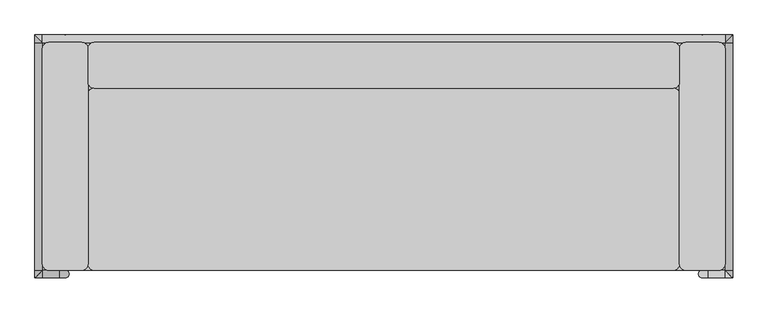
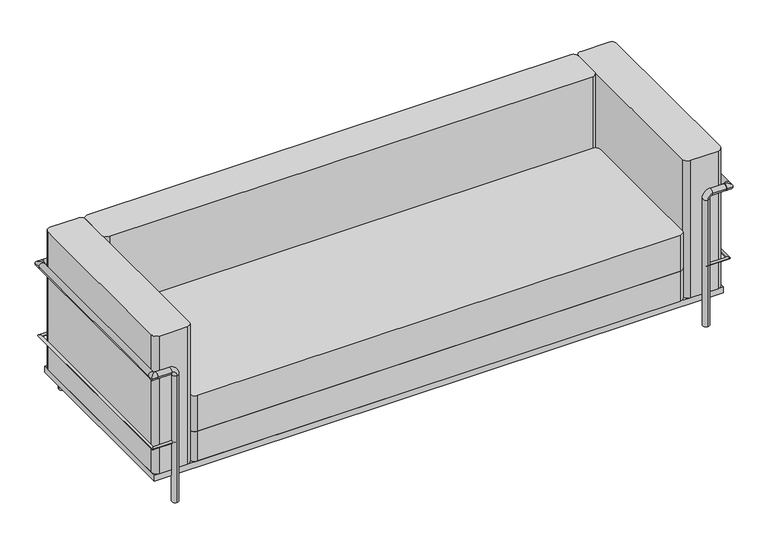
"""IFC4 building model written with IfcOpenShell, lengths in millimetres: furniture geometry, Couch_-_Le_Corbusier_Family_-_1_2_3_seater_9476 : 3 posti 2."""

from ifc_helpers import new_model, si_unit, point, frame, frame_2d, origin, origin_with_axes, place, context, project, spatial, polyline, circle_curve, ellipse_curve, trimmed, segment, composite_curve, outline, extrude, source, transform, mapped, element, save
from ifc_brep_helpers import plane_surface, cylinder_surface, revolved_surface, advanced_brep


def furniture_bfcdaa0c(model_context):
    return source(origin(), model_context, "Body", "SolidModel", [
        advanced_brep(
        [(-1050.0, -557.5, 250.0), (-1050.0, -567.5, 250.0), (-1132.5, -557.5, 250.0), (-1142.5, -567.5, 250.0), (-1132.5, 207.5, 250.0), (-1142.5, 217.5, 250.0), (1132.5, 207.5, 250.0), (1142.5, 217.5, 250.0), (1132.5, -557.5, 250.0), (1142.5, -567.5, 250.0), (1050.0, -557.5, 250.0), (1050.0, -567.5, 250.0)],
        [
            (0, 1, circle_curve(frame((-1050.0, -562.5, 250.0), z_axis=(1.0, 0.0, 0.0), x_axis=(0.0, -1.0, 0.0)), 5.0)),
            (1, 0, circle_curve(frame((-1050.0, -562.5, 250.0), z_axis=(1.0, 0.0, 0.0), x_axis=(0.0, -1.0, 0.0)), 5.0)),
            (0, 2),
            (2, 3, ellipse_curve(frame((-1137.5, -562.5, 250.0), z_axis=(0.7071067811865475, -0.7071067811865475, 0.0), x_axis=(0.7071067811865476, 0.7071067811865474, 0.0)), 7.0710678, 5.0)),
            (3, 1),
            (3, 2, ellipse_curve(frame((-1137.5, -562.5, 250.0), z_axis=(0.7071067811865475, -0.7071067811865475, 0.0), x_axis=(0.7071067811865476, 0.7071067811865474, 0.0)), 7.0710678, 5.0)),
            (2, 4),
            (4, 5, ellipse_curve(frame((-1137.5, 212.5, 250.0), z_axis=(-0.7071067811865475, -0.7071067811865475, 0.0), x_axis=(0.7071067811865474, -0.7071067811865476, 0.0)), 7.0710678, 5.0)),
            (5, 3),
            (5, 4, ellipse_curve(frame((-1137.5, 212.5, 250.0), z_axis=(-0.7071067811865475, -0.7071067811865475, 0.0), x_axis=(0.7071067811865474, -0.7071067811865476, 0.0)), 7.0710678, 5.0)),
            (4, 6),
            (6, 7, ellipse_curve(frame((1137.5, 212.5, 250.0), z_axis=(-0.7071067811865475, 0.7071067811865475, 0.0), x_axis=(-0.7071067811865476, -0.7071067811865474, 0.0)), 7.0710678, 5.0)),
            (7, 5),
            (7, 6, ellipse_curve(frame((1137.5, 212.5, 250.0), z_axis=(-0.7071067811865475, 0.7071067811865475, 0.0), x_axis=(-0.7071067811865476, -0.7071067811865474, 0.0)), 7.0710678, 5.0)),
            (6, 8),
            (8, 9, ellipse_curve(frame((1137.5, -562.5, 250.0), z_axis=(0.7071067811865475, 0.7071067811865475, 0.0), x_axis=(-0.7071067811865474, 0.7071067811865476, 0.0)), 7.0710678, 5.0)),
            (9, 7),
            (9, 8, ellipse_curve(frame((1137.5, -562.5, 250.0), z_axis=(0.7071067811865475, 0.7071067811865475, 0.0), x_axis=(-0.7071067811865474, 0.7071067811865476, 0.0)), 7.0710678, 5.0)),
            (10, 11, circle_curve(frame((1050.0, -562.5, 250.0), z_axis=(-1.0, 0.0, 0.0), x_axis=(0.0, -1.0, 0.0)), 5.0)),
            (11, 10, circle_curve(frame((1050.0, -562.5, 250.0), z_axis=(-1.0, 0.0, 0.0), x_axis=(0.0, -1.0, 0.0)), 5.0)),
            (8, 10),
            (11, 9),
        ],
        [
            plane_surface(frame((-1050.0, -562.5, 250.0), z_axis=(1.0, 0.0, 0.0), x_axis=(0.0, 0.0, 1.0))),
            cylinder_surface(frame((-1050.0, -562.5, 250.0), z_axis=(1.0, 0.0, 0.0), x_axis=(0.0, -1.0, 0.0)), 5.0),
            cylinder_surface(frame((-1137.5, -562.5, 250.0), z_axis=(0.0, -1.0, 0.0), x_axis=(-1.0, 0.0, 0.0)), 5.0),
            cylinder_surface(frame((-1137.5, 212.5, 250.0), z_axis=(-1.0, 0.0, 0.0), x_axis=(0.0, 1.0, 0.0)), 5.0),
            cylinder_surface(frame((1137.5, 212.5, 250.0), z_axis=(0.0, 1.0, 0.0), x_axis=(1.0, 0.0, 0.0)), 5.0),
            plane_surface(frame((1050.0, -562.5, 250.0), z_axis=(-1.0, 0.0, 0.0), x_axis=(0.0, 0.0, 1.0))),
            cylinder_surface(frame((1137.5, -562.5, 250.0), z_axis=(1.0, 0.0, 0.0), x_axis=(0.0, -1.0, 0.0)), 5.0),
        ],
        [
            (0, [[1, 2]]),
            (1, [[-1, 3, 4, 5]]),
            (1, [[-2, -5, 6, -3]]),
            (2, [[-4, 7, 8, 9]]),
            (2, [[-6, -9, 10, -7]]),
            (3, [[-8, 11, 12, 13]]),
            (3, [[-10, -13, 14, -11]]),
            (4, [[-12, 15, 16, 17]]),
            (4, [[-14, -17, 18, -15]]),
            (5, [[19, 20]]),
            (6, [[-16, 21, -20, 22]]),
            (6, [[-18, -22, -19, -21]]),
        ],
    ),
        extrude(outline(composite_curve([segment(trimmed(circle_curve(frame_2d((1050.0, 212.5)), 12.5), [point((1062.5, 212.5))], [point((1037.5, 212.5))], False, "CARTESIAN"), True, "CONTINUOUS"), segment(trimmed(circle_curve(frame_2d((1050.0, 212.5)), 12.5), [point((1037.5, 212.5))], [point((1062.5, 212.5))], False, "CARTESIAN"), True, "CONTINUOUS")], self_intersect=False)), origin_with_axes(), (0.0, 0.0, 1.0), 550.0),
        extrude(outline(composite_curve([segment(trimmed(circle_curve(frame_2d((-1050.0, 212.5)), 12.5), [point((-1062.5, 212.5))], [point((-1037.5, 212.5))], False, "CARTESIAN"), True, "CONTINUOUS"), segment(trimmed(circle_curve(frame_2d((-1050.0, 212.5)), 12.5), [point((-1037.5, 212.5))], [point((-1062.5, 212.5))], False, "CARTESIAN"), True, "CONTINUOUS")], self_intersect=False)), origin_with_axes(), (0.0, 0.0, 1.0), 550.0),
        extrude(outline(composite_curve([segment(trimmed(circle_curve(frame_2d((212.5, 550.0)), 12.5), [point((200.0, 550.0))], [point((225.0, 550.0))], False, "CARTESIAN"), True, "CONTINUOUS"), segment(trimmed(circle_curve(frame_2d((212.5, 550.0)), 12.5), [point((225.0, 550.0))], [point((200.0, 550.0))], False, "CARTESIAN"), True, "CONTINUOUS")], self_intersect=False)), frame((-1125.0, 0.0, 0.0), z_axis=(1.0, 0.0, 0.0), x_axis=(0.0, 1.0, 0.0)), (0.0, 0.0, 1.0), 2250.0),
        advanced_brep(
        [(1125.0, 200.0, 550.0), (1125.0, 225.0, 550.0), (1150.0, 225.0, 550.0), (1150.0, 200.0, 550.0), (1125.0, -550.0, 550.0), (1150.0, -550.0, 550.0), (1150.0, -575.0, 550.0), (1125.0, -575.0, 550.0)],
        [
            (0, 1, circle_curve(frame((1125.0, 212.5, 550.0), z_axis=(-1.0, 0.0, 0.0), x_axis=(0.0, 1.0, 0.0)), 12.5)),
            (1, 0, circle_curve(frame((1125.0, 212.5, 550.0), z_axis=(-1.0, 0.0, 0.0), x_axis=(0.0, 1.0, 0.0)), 12.5)),
            (0, 2, ellipse_curve(frame((1137.5, 212.5, 550.0), z_axis=(-0.7071067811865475, 0.7071067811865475, 0.0), x_axis=(-0.7071067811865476, -0.7071067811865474, 0.0)), 17.6776695, 12.5)),
            (2, 1),
            (2, 0, ellipse_curve(frame((1137.5, 212.5, 550.0), z_axis=(-0.7071067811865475, 0.7071067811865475, 0.0), x_axis=(-0.7071067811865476, -0.7071067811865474, 0.0)), 17.6776695, 12.5)),
            (0, 3, circle_curve(frame((1137.5, 200.0, 550.0), z_axis=(0.0, 1.0, 0.0), x_axis=(1.0, 0.0, 0.0)), 12.5)),
            (3, 2),
            (3, 0, circle_curve(frame((1137.5, 200.0, 550.0), z_axis=(0.0, 1.0, 0.0), x_axis=(1.0, 0.0, 0.0)), 12.5)),
            (0, 4),
            (4, 5, circle_curve(frame((1137.5, -550.0, 550.0), z_axis=(0.0, 1.0, 0.0), x_axis=(1.0, 0.0, 0.0)), 12.5)),
            (5, 3),
            (5, 4, circle_curve(frame((1137.5, -550.0, 550.0), z_axis=(0.0, 1.0, 0.0), x_axis=(1.0, 0.0, 0.0)), 12.5)),
            (4, 6, ellipse_curve(frame((1137.5, -562.5, 550.0), z_axis=(0.7071067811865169, 0.7071067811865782, 0.0), x_axis=(-0.7071067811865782, 0.7071067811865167, 0.0)), 17.6776695, 12.5)),
            (6, 5),
            (6, 4, ellipse_curve(frame((1137.5, -562.5, 550.0), z_axis=(0.7071067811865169, 0.7071067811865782, 0.0), x_axis=(-0.7071067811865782, 0.7071067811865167, 0.0)), 17.6776695, 12.5)),
            (4, 7, circle_curve(frame((1125.0, -562.5, 550.0), z_axis=(-1.0, 0.0, 0.0), x_axis=(0.0, -1.0, 0.0)), 12.5)),
            (7, 4, circle_curve(frame((1125.0, -562.5, 550.0), z_axis=(-1.0, 0.0, 0.0), x_axis=(0.0, -1.0, 0.0)), 12.5)),
            (7, 6),
        ],
        [
            plane_surface(frame((1125.0, 212.5, 550.0), z_axis=(-1.0, 0.0, 0.0), x_axis=(0.0, 0.0, 1.0))),
            cylinder_surface(frame((1125.0, 212.5, 550.0), z_axis=(-1.0, 0.0, 0.0), x_axis=(0.0, 1.0, 0.0)), 12.5),
            cylinder_surface(frame((1137.5, 212.5, 550.0), z_axis=(0.0, 1.0, 0.0), x_axis=(1.0, 0.0, 0.0)), 12.5),
            cylinder_surface(frame((1137.5, 200.0, 550.0), z_axis=(0.0, 1.0, 0.0), x_axis=(1.0, 0.0, 0.0)), 12.5),
            cylinder_surface(frame((1137.5, -550.0, 550.0), z_axis=(0.0, 1.0, 0.0), x_axis=(1.0, 0.0, 0.0)), 12.5),
            plane_surface(frame((1125.0, -562.5, 550.0), z_axis=(-1.0, 0.0, 0.0), x_axis=(0.0, 0.0, 1.0))),
            cylinder_surface(frame((1137.5, -562.5, 550.0), z_axis=(1.0, 0.0, 0.0), x_axis=(0.0, -1.0, 0.0)), 12.5),
        ],
        [
            (0, [[1, 2]]),
            (1, [[-1, 3, 4]]),
            (1, [[-2, -4, 5]]),
            (2, [[-3, 6, 7]]),
            (2, [[-5, -7, 8]]),
            (3, [[-6, 9, 10, 11]]),
            (3, [[-8, -11, 12, -9]]),
            (4, [[-10, 13, 14]]),
            (4, [[-12, -14, 15]]),
            (5, [[16, 17]]),
            (6, [[-13, -17, 18]]),
            (6, [[-15, -18, -16]]),
        ],
    ),
        advanced_brep(
        [(-1125.0, 225.0, 550.0), (-1125.0, 200.0, 550.0), (-1150.0, 225.0, 550.0), (-1150.0, 200.0, 550.0), (-1150.0, -550.0, 550.0), (-1125.0, -550.0, 550.0), (-1150.0, -575.0, 550.0), (-1125.0, -575.0, 550.0)],
        [
            (0, 1, circle_curve(frame((-1125.0, 212.5, 550.0), z_axis=(1.0, 0.0, 0.0), x_axis=(0.0, -1.0, 0.0)), 12.5)),
            (1, 0, circle_curve(frame((-1125.0, 212.5, 550.0), z_axis=(1.0, 0.0, 0.0), x_axis=(0.0, -1.0, 0.0)), 12.5)),
            (0, 2),
            (2, 1, ellipse_curve(frame((-1137.5, 212.5, 550.0), z_axis=(0.7071067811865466, 0.7071067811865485, 0.0), x_axis=(0.7071067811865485, -0.7071067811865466, 0.0)), 17.6776695, 12.5)),
            (1, 2, ellipse_curve(frame((-1137.5, 212.5, 550.0), z_axis=(0.7071067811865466, 0.7071067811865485, 0.0), x_axis=(0.7071067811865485, -0.7071067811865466, 0.0)), 17.6776695, 12.5)),
            (2, 3),
            (3, 1, circle_curve(frame((-1137.5, 200.0, 550.0), z_axis=(0.0, 1.0, 0.0), x_axis=(1.0, 0.0, 0.0)), 12.5)),
            (1, 3, circle_curve(frame((-1137.5, 200.0, 550.0), z_axis=(0.0, 1.0, 0.0), x_axis=(1.0, 0.0, 0.0)), 12.5)),
            (3, 4),
            (4, 5, circle_curve(frame((-1137.5, -550.0, 550.0), z_axis=(0.0, 1.0, 0.0), x_axis=(1.0, 0.0, 0.0)), 12.5)),
            (5, 1),
            (5, 4, circle_curve(frame((-1137.5, -550.0, 550.0), z_axis=(0.0, 1.0, 0.0), x_axis=(1.0, 0.0, 0.0)), 12.5)),
            (4, 6),
            (6, 5, ellipse_curve(frame((-1137.5, -562.5, 550.0), z_axis=(-0.7071067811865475, 0.7071067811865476, 0.0), x_axis=(0.7071067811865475, 0.7071067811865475, 0.0)), 17.6776695, 12.5)),
            (5, 6, ellipse_curve(frame((-1137.5, -562.5, 550.0), z_axis=(-0.7071067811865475, 0.7071067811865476, 0.0), x_axis=(0.7071067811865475, 0.7071067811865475, 0.0)), 17.6776695, 12.5)),
            (7, 5, circle_curve(frame((-1125.0, -562.5, 550.0), z_axis=(1.0, 0.0, 0.0), x_axis=(0.0, 1.0, 0.0)), 12.5)),
            (5, 7, circle_curve(frame((-1125.0, -562.5, 550.0), z_axis=(1.0, 0.0, 0.0), x_axis=(0.0, 1.0, 0.0)), 12.5)),
            (6, 7),
        ],
        [
            plane_surface(frame((-1125.0, 212.5, 550.0), z_axis=(1.0, 0.0, 0.0), x_axis=(0.0, 0.0, 1.0))),
            cylinder_surface(frame((-1125.0, 212.5, 550.0), z_axis=(1.0, 0.0, 0.0), x_axis=(0.0, -1.0, 0.0)), 12.5),
            cylinder_surface(frame((-1137.5, 212.5, 550.0), z_axis=(0.0, 1.0, 0.0), x_axis=(1.0, 0.0, 0.0)), 12.5),
            cylinder_surface(frame((-1137.5, 200.0, 550.0), z_axis=(0.0, 1.0, 0.0), x_axis=(1.0, 0.0, 0.0)), 12.5),
            cylinder_surface(frame((-1137.5, -550.0, 550.0), z_axis=(0.0, 1.0, 0.0), x_axis=(1.0, 0.0, 0.0)), 12.5),
            plane_surface(frame((-1125.0, -562.5, 550.0), z_axis=(1.0, 0.0, 0.0), x_axis=(0.0, 0.0, 1.0))),
            cylinder_surface(frame((-1137.5, -562.5, 550.0), z_axis=(-1.0, 0.0, 0.0), x_axis=(0.0, 1.0, 0.0)), 12.5),
        ],
        [
            (0, [[1, 2]]),
            (1, [[-1, 3, 4]]),
            (1, [[-2, 5, -3]]),
            (2, [[-4, 6, 7]]),
            (2, [[-5, 8, -6]]),
            (3, [[-7, 9, 10, 11]]),
            (3, [[-8, -11, 12, -9]]),
            (4, [[-10, 13, 14]]),
            (4, [[-12, 15, -13]]),
            (5, [[16, 17]]),
            (6, [[-14, 18, -17]]),
            (6, [[-15, -16, -18]]),
        ],
    ),
        advanced_brep(
        [(1125.0, -550.0, 550.0), (1125.0, -575.0, 550.0), (1070.0, -550.0, 550.0), (1070.0, -575.0, 550.0), (1050.0, -575.0, 530.0), (1050.0, -550.0, 530.0), (1050.0, -550.0, 0.0), (1050.0, -575.0, 0.0)],
        [
            (0, 1, circle_curve(frame((1125.0, -562.5, 550.0), z_axis=(1.0, 0.0, 0.0), x_axis=(0.0, -1.0, 0.0)), 12.5)),
            (1, 0, circle_curve(frame((1125.0, -562.5, 550.0), z_axis=(1.0, 0.0, 0.0), x_axis=(0.0, -1.0, 0.0)), 12.5)),
            (0, 2),
            (2, 3, circle_curve(frame((1070.0, -562.5, 550.0), z_axis=(1.0, 0.0, 0.0), x_axis=(0.0, -1.0, 0.0)), 12.5)),
            (3, 1),
            (3, 2, circle_curve(frame((1070.0, -562.5, 550.0), z_axis=(1.0, 0.0, 0.0), x_axis=(0.0, -1.0, 0.0)), 12.5)),
            (4, 3, circle_curve(frame((1070.0, -575.0, 530.0), z_axis=(0.0, 1.0, 0.0), x_axis=(0.0, 0.0, 1.0)), 20.0)),
            (2, 5, circle_curve(frame((1070.0, -550.0, 530.0), z_axis=(0.0, -1.0, 0.0), x_axis=(0.0, 0.0, 1.0)), 20.0)),
            (5, 4, circle_curve(frame((1050.0, -562.5, 530.0), z_axis=(0.0, 0.0, 1.0), x_axis=(0.0, -1.0, 0.0)), 12.5)),
            (4, 5, circle_curve(frame((1050.0, -562.5, 530.0), z_axis=(0.0, 0.0, 1.0), x_axis=(0.0, -1.0, 0.0)), 12.5)),
            (6, 7, circle_curve(frame((1050.0, -562.5, 0.0), z_axis=(0.0, 0.0, -1.0), x_axis=(0.0, -1.0, 0.0)), 12.5)),
            (7, 6, circle_curve(frame((1050.0, -562.5, 0.0), z_axis=(0.0, 0.0, -1.0), x_axis=(0.0, -1.0, 0.0)), 12.5)),
            (5, 6),
            (7, 4),
        ],
        [
            plane_surface(frame((1125.0, -562.5, 550.0), z_axis=(1.0, 0.0, 0.0), x_axis=(0.0, -1.0, 0.0))),
            cylinder_surface(frame((1125.0, -562.5, 550.0), z_axis=(1.0, 0.0, 0.0), x_axis=(0.0, -1.0, 0.0)), 12.5),
            revolved_surface(trimmed(ellipse_curve(frame((1070.0, -562.5, 550.0), z_axis=(1.0, 0.0, 0.0), x_axis=(0.0, -1.0, 0.0)), 12.5, 12.5), [point((1070.0, -550.0, 550.0))], [point((1070.0, -575.0, 550.0))], True, "CARTESIAN"), (1070.0, -562.5, 530.0), (0.0, -1.0, 0.0)),
            revolved_surface(trimmed(ellipse_curve(frame((1070.0, -562.5, 550.0), z_axis=(1.0, 0.0, 0.0), x_axis=(0.0, -1.0, 0.0)), 12.5, 12.5), [point((1070.0, -575.0, 550.0))], [point((1070.0, -550.0, 550.0))], True, "CARTESIAN"), (1070.0, -562.5, 530.0), (0.0, -1.0, 0.0)),
            plane_surface(frame((1050.0, -562.5, 0.0), z_axis=(0.0, 0.0, -1.0), x_axis=(0.0, -1.0, 0.0))),
            cylinder_surface(frame((1050.0, -562.5, 530.0), z_axis=(0.0, 0.0, 1.0), x_axis=(0.0, -1.0, 0.0)), 12.5),
        ],
        [
            (0, [[1, 2]]),
            (1, [[-1, 3, 4, 5]]),
            (1, [[-2, -5, 6, -3]]),
            (2, [[7, -4, 8, 9]]),
            (3, [[-8, -6, -7, 10]]),
            (4, [[11, 12]]),
            (5, [[-9, 13, -12, 14]]),
            (5, [[-10, -14, -11, -13]]),
        ],
    ),
        advanced_brep(
        [(-1125.0, -550.0, 550.0), (-1125.0, -575.0, 550.0), (-1070.0, -550.0, 550.0), (-1070.0, -575.0, 550.0), (-1050.0, -575.0, 530.0), (-1050.0, -550.0, 530.0), (-1050.0, -550.0, 0.0), (-1050.0, -575.0, 0.0)],
        [
            (0, 1, circle_curve(frame((-1125.0, -562.5, 550.0), z_axis=(-1.0, 0.0, 0.0), x_axis=(0.0, -1.0, 0.0)), 12.5)),
            (1, 0, circle_curve(frame((-1125.0, -562.5, 550.0), z_axis=(-1.0, 0.0, 0.0), x_axis=(0.0, -1.0, 0.0)), 12.5)),
            (0, 2),
            (2, 3, circle_curve(frame((-1070.0, -562.5, 550.0), z_axis=(-1.0, 0.0, 0.0), x_axis=(0.0, -1.0, 0.0)), 12.5)),
            (3, 1),
            (3, 2, circle_curve(frame((-1070.0, -562.5, 550.0), z_axis=(-1.0, 0.0, 0.0), x_axis=(0.0, -1.0, 0.0)), 12.5)),
            (4, 3, circle_curve(frame((-1070.0, -575.0, 530.0), z_axis=(0.0, -1.0, 0.0), x_axis=(0.0, 0.0, 1.0)), 20.0)),
            (2, 5, circle_curve(frame((-1070.0, -550.0, 530.0), z_axis=(0.0, 1.0, 0.0), x_axis=(0.0, 0.0, 1.0)), 20.0)),
            (5, 4, circle_curve(frame((-1050.0, -562.5, 530.0), z_axis=(0.0, 0.0, 1.0), x_axis=(0.0, -1.0, 0.0)), 12.5)),
            (4, 5, circle_curve(frame((-1050.0, -562.5, 530.0), z_axis=(0.0, 0.0, 1.0), x_axis=(0.0, -1.0, 0.0)), 12.5)),
            (6, 7, circle_curve(frame((-1050.0, -562.5, 0.0), z_axis=(0.0, 0.0, -1.0), x_axis=(0.0, -1.0, 0.0)), 12.5)),
            (7, 6, circle_curve(frame((-1050.0, -562.5, 0.0), z_axis=(0.0, 0.0, -1.0), x_axis=(0.0, -1.0, 0.0)), 12.5)),
            (5, 6),
            (7, 4),
        ],
        [
            plane_surface(frame((-1125.0, -562.5, 550.0), z_axis=(-1.0, 0.0, 0.0), x_axis=(0.0, -1.0, 0.0))),
            cylinder_surface(frame((-1125.0, -562.5, 550.0), z_axis=(-1.0, 0.0, 0.0), x_axis=(0.0, -1.0, 0.0)), 12.5),
            revolved_surface(trimmed(ellipse_curve(frame((-1070.0, -562.5, 550.0), z_axis=(-1.0, 0.0, 0.0), x_axis=(0.0, -1.0, 0.0)), 12.5, 12.5), [point((-1070.0, -550.0, 550.0))], [point((-1070.0, -575.0, 550.0))], True, "CARTESIAN"), (-1070.0, -562.5, 530.0), (0.0, 1.0, 0.0)),
            revolved_surface(trimmed(ellipse_curve(frame((-1070.0, -562.5, 550.0), z_axis=(-1.0, 0.0, 0.0), x_axis=(0.0, -1.0, 0.0)), 12.5, 12.5), [point((-1070.0, -575.0, 550.0))], [point((-1070.0, -550.0, 550.0))], True, "CARTESIAN"), (-1070.0, -562.5, 530.0), (0.0, 1.0, 0.0)),
            plane_surface(frame((-1050.0, -562.5, 0.0), z_axis=(0.0, 0.0, -1.0), x_axis=(0.0, -1.0, 0.0))),
            cylinder_surface(frame((-1050.0, -562.5, 530.0), z_axis=(0.0, 0.0, 1.0), x_axis=(0.0, -1.0, 0.0)), 12.5),
        ],
        [
            (0, [[1, 2]]),
            (1, [[-1, 3, 4, 5]]),
            (1, [[-2, -5, 6, -3]]),
            (2, [[7, -4, 8, 9]]),
            (3, [[-8, -6, -7, 10]]),
            (4, [[11, 12]]),
            (5, [[-9, 13, -12, 14]]),
            (5, [[-10, -14, -11, -13]]),
        ],
    ),
        extrude(outline(composite_curve([segment(polyline([(-975.0, -530.0), (-975.0, 30.0)]), True, "CONTINUOUS"), segment(trimmed(circle_curve(frame_2d((-955.0, 30.0)), 20.0), [point((-975.0, 30.0))], [point((-955.0, 50.0))], False, "CARTESIAN"), True, "CONTINUOUS"), segment(polyline([(-955.0, 50.0), (955.0, 50.0)]), True, "CONTINUOUS"), segment(trimmed(circle_curve(frame_2d((955.0, 30.0)), 20.0), [point((955.0, 50.0))], [point((975.0, 30.0))], False, "CARTESIAN"), True, "CONTINUOUS"), segment(polyline([(975.0, 30.0), (975.0, -530.0)]), True, "CONTINUOUS"), segment(trimmed(circle_curve(frame_2d((955.0, -530.0)), 20.0), [point((975.0, -530.0))], [point((955.0, -550.0))], False, "CARTESIAN"), True, "CONTINUOUS"), segment(polyline([(955.0, -550.0), (-955.0, -550.0)]), True, "CONTINUOUS"), segment(trimmed(circle_curve(frame_2d((-955.0, -530.0)), 20.0), [point((-955.0, -550.0))], [point((-975.0, -530.0))], False, "CARTESIAN"), True, "CONTINUOUS")], self_intersect=False)), frame((0.0, 0.0, 250.0), z_axis=(0.0, 0.0, 1.0), x_axis=(1.0, 0.0, 0.0)), (0.0, 0.0, 1.0), 150.0),
        extrude(outline(composite_curve([segment(polyline([(-975.0, -530.0), (-975.0, 30.0)]), True, "CONTINUOUS"), segment(trimmed(circle_curve(frame_2d((-955.0, 30.0)), 20.0), [point((-975.0, 30.0))], [point((-955.0, 50.0))], False, "CARTESIAN"), True, "CONTINUOUS"), segment(polyline([(-955.0, 50.0), (955.0, 50.0)]), True, "CONTINUOUS"), segment(trimmed(circle_curve(frame_2d((955.0, 30.0)), 20.0), [point((955.0, 50.0))], [point((975.0, 30.0))], False, "CARTESIAN"), True, "CONTINUOUS"), segment(polyline([(975.0, 30.0), (975.0, -530.0)]), True, "CONTINUOUS"), segment(trimmed(circle_curve(frame_2d((955.0, -530.0)), 20.0), [point((975.0, -530.0))], [point((955.0, -550.0))], False, "CARTESIAN"), True, "CONTINUOUS"), segment(polyline([(955.0, -550.0), (-955.0, -550.0)]), True, "CONTINUOUS"), segment(trimmed(circle_curve(frame_2d((-955.0, -530.0)), 20.0), [point((-955.0, -550.0))], [point((-975.0, -530.0))], False, "CARTESIAN"), True, "CONTINUOUS")], self_intersect=False)), frame((0.0, 0.0, 125.0), z_axis=(0.0, 0.0, 1.0), x_axis=(1.0, 0.0, 0.0)), (0.0, 0.0, 1.0), 125.0),
        extrude(outline(composite_curve([segment(polyline([(-955.0, 200.0), (955.0, 200.0)]), True, "CONTINUOUS"), segment(trimmed(circle_curve(frame_2d((955.0, 180.0)), 20.0), [point((955.0, 200.0))], [point((975.0, 180.0))], False, "CARTESIAN"), True, "CONTINUOUS"), segment(polyline([(975.0, 180.0), (975.0, 70.0)]), True, "CONTINUOUS"), segment(trimmed(circle_curve(frame_2d((955.0, 70.0)), 20.0), [point((975.0, 70.0))], [point((955.0, 50.0))], False, "CARTESIAN"), True, "CONTINUOUS"), segment(polyline([(955.0, 50.0), (-955.0, 50.0)]), True, "CONTINUOUS"), segment(trimmed(circle_curve(frame_2d((-955.0, 70.0)), 20.0), [point((-955.0, 50.0))], [point((-975.0, 70.0))], False, "CARTESIAN"), True, "CONTINUOUS"), segment(polyline([(-975.0, 70.0), (-975.0, 180.0)]), True, "CONTINUOUS"), segment(trimmed(circle_curve(frame_2d((-955.0, 180.0)), 20.0), [point((-975.0, 180.0))], [point((-955.0, 200.0))], False, "CARTESIAN"), True, "CONTINUOUS")], self_intersect=False)), frame((0.0, 0.0, 125.0), z_axis=(0.0, 0.0, 1.0), x_axis=(1.0, 0.0, 0.0)), (0.0, 0.0, 1.0), 575.0),
        extrude(outline(composite_curve([segment(trimmed(circle_curve(frame_2d((1105.0, -530.0)), 20.0), [point((1125.0, -530.0))], [point((1105.0, -550.0))], False, "CARTESIAN"), True, "CONTINUOUS"), segment(polyline([(1105.0, -550.0), (995.0, -550.0)]), True, "CONTINUOUS"), segment(trimmed(circle_curve(frame_2d((995.0, -530.0)), 20.0), [point((995.0, -550.0))], [point((975.0, -530.0))], False, "CARTESIAN"), True, "CONTINUOUS"), segment(polyline([(975.0, -530.0), (975.0, 180.0)]), True, "CONTINUOUS"), segment(trimmed(circle_curve(frame_2d((995.0, 180.0)), 20.0), [point((975.0, 180.0))], [point((995.0, 200.0))], False, "CARTESIAN"), True, "CONTINUOUS"), segment(polyline([(995.0, 200.0), (1105.0, 200.0)]), True, "CONTINUOUS"), segment(trimmed(circle_curve(frame_2d((1105.0, 180.0)), 20.0), [point((1105.0, 200.0))], [point((1125.0, 180.0))], False, "CARTESIAN"), True, "CONTINUOUS"), segment(polyline([(1125.0, 180.0), (1125.0, -530.0)]), True, "CONTINUOUS")], self_intersect=False)), frame((0.0, 0.0, 125.0), z_axis=(0.0, 0.0, 1.0), x_axis=(1.0, 0.0, 0.0)), (0.0, 0.0, 1.0), 575.0),
        extrude(outline(composite_curve([segment(polyline([(-1125.0, -530.0), (-1125.0, 180.0)]), True, "CONTINUOUS"), segment(trimmed(circle_curve(frame_2d((-1105.0, 180.0)), 20.0), [point((-1125.0, 180.0))], [point((-1105.0, 200.0))], False, "CARTESIAN"), True, "CONTINUOUS"), segment(polyline([(-1105.0, 200.0), (-995.0, 200.0)]), True, "CONTINUOUS"), segment(trimmed(circle_curve(frame_2d((-995.0, 180.0)), 20.0), [point((-995.0, 200.0))], [point((-975.0, 180.0))], False, "CARTESIAN"), True, "CONTINUOUS"), segment(polyline([(-975.0, 180.0), (-975.0, -530.0)]), True, "CONTINUOUS"), segment(trimmed(circle_curve(frame_2d((-995.0, -530.0)), 20.0), [point((-975.0, -530.0))], [point((-995.0, -550.0))], False, "CARTESIAN"), True, "CONTINUOUS"), segment(polyline([(-995.0, -550.0), (-1105.0, -550.0)]), True, "CONTINUOUS"), segment(trimmed(circle_curve(frame_2d((-1105.0, -530.0)), 20.0), [point((-1105.0, -550.0))], [point((-1125.0, -530.0))], False, "CARTESIAN"), True, "CONTINUOUS")], self_intersect=False)), frame((0.0, 0.0, 125.0), z_axis=(0.0, 0.0, 1.0), x_axis=(1.0, 0.0, 0.0)), (0.0, 0.0, 1.0), 575.0),
        extrude(outline(polyline([(-1125.0, 200.0), (1125.0, 200.0), (1125.0, -550.0), (-1125.0, -550.0), (-1125.0, 200.0)])), frame((0.0, 0.0, 100.0), z_axis=(0.0, 0.0, 1.0), x_axis=(1.0, 0.0, 0.0)), (0.0, 0.0, 1.0), 25.0),
    ])


if __name__ == "__main__":
    model = new_model("IFC4")
    model_context = context("Model", 3, world=origin())
    ifc_project = project(units=[si_unit("LENGTHUNIT", "METRE", prefix="MILLI")], contexts=[model_context])
    site = spatial("IfcSite", under=ifc_project)
    building = spatial("IfcBuilding", under=site)
    placement = place(None, origin())
    furniture_shape = furniture_bfcdaa0c(model_context)
    element("IfcFurniture", 1, ObjectType="Couch_-_Le_Corbusier_Family_-_1_2_3_seater_9476 : 3 posti 2", at=placement, inside=building, context=model_context, shape_type="MappedRepresentation", body=[
        mapped(furniture_shape, transform((0.0, 0.0, 0.0), x_axis=(1.0, 0.0, 0.0), y_axis=(0.0, 1.0, 0.0), z_axis=(0.0, 0.0, 1.0))),
    ])
    save(model, "model.ifc")
